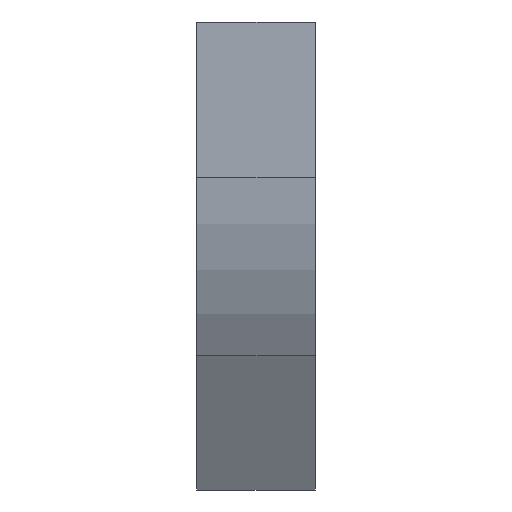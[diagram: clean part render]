
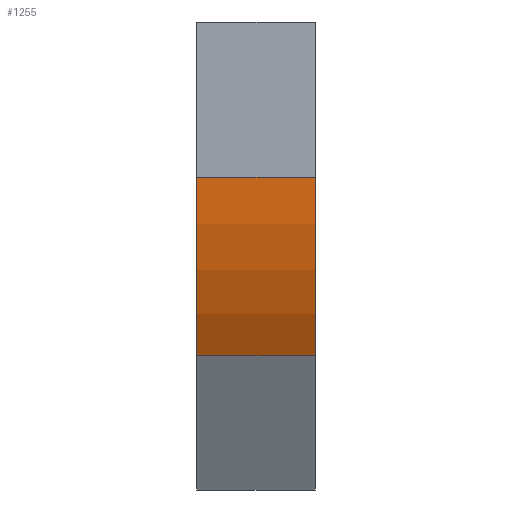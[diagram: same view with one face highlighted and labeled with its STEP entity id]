
A CAD part, left-side view. The second image highlights one B-rep face of the part: STEP entity #1255.
In plain terms, the highlighted cylindrical face has radius 300 mm (diameter 600 mm), a partial arc.
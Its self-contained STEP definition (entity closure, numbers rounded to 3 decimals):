
#19 = EDGE_LOOP ( 'NONE', ( #89, #987, #1517, #337 ) ) ;
#73 = VERTEX_POINT ( 'NONE', #1425 ) ;
#89 = ORIENTED_EDGE ( 'NONE', *, *, #729, .F. ) ;
#145 = VECTOR ( 'NONE', #492, 1000. ) ;
#167 = CARTESIAN_POINT ( 'NONE',  ( 40.192, 0., -280.385 ) ) ;
#254 = CARTESIAN_POINT ( 'NONE',  ( 0., 0., -130.385 ) ) ;
#263 = DIRECTION ( 'NONE',  ( 0., -1., 0. ) ) ;
#337 = ORIENTED_EDGE ( 'NONE', *, *, #364, .T. ) ;
#364 = EDGE_CURVE ( 'NONE', #939, #750, #872, .T. ) ;
#400 = FACE_OUTER_BOUND ( 'NONE', #19, .T. ) ;
#405 = CARTESIAN_POINT ( 'NONE',  ( 300., 100., -130.385 ) ) ;
#419 = DIRECTION ( 'NONE',  ( 0., -1., 0. ) ) ;
#420 = CIRCLE ( 'NONE', #1356, 300. ) ;
#451 = CIRCLE ( 'NONE', #1574, 300. ) ;
#481 = VECTOR ( 'NONE', #651, 1000. ) ;
#492 = DIRECTION ( 'NONE',  ( 0., -1., 0. ) ) ;
#509 = CARTESIAN_POINT ( 'NONE',  ( 40.192, 0., -280.385 ) ) ;
#617 = AXIS2_PLACEMENT_3D ( 'NONE', #901, #263, #779 ) ;
#651 = DIRECTION ( 'NONE',  ( 0., -1., 0. ) ) ;
#668 = LINE ( 'NONE', #254, #481 ) ;
#670 = DIRECTION ( 'NONE',  ( -1., 0., 0. ) ) ;
#729 = EDGE_CURVE ( 'NONE', #1371, #750, #420, .T. ) ;
#750 = VERTEX_POINT ( 'NONE', #167 ) ;
#779 = DIRECTION ( 'NONE',  ( 0., 0., -1. ) ) ;
#872 = LINE ( 'NONE', #509, #145 ) ;
#901 = CARTESIAN_POINT ( 'NONE',  ( 300., 0., -130.385 ) ) ;
#939 = VERTEX_POINT ( 'NONE', #1099 ) ;
#987 = ORIENTED_EDGE ( 'NONE', *, *, #1241, .F. ) ;
#1062 = CARTESIAN_POINT ( 'NONE',  ( 300., 0., -130.385 ) ) ;
#1072 = CARTESIAN_POINT ( 'NONE',  ( 0., 0., -130.385 ) ) ;
#1099 = CARTESIAN_POINT ( 'NONE',  ( 40.192, 100., -280.385 ) ) ;
#1158 = CYLINDRICAL_SURFACE ( 'NONE', #617, 300. ) ;
#1241 = EDGE_CURVE ( 'NONE', #73, #1371, #668, .T. ) ;
#1255 = ADVANCED_FACE ( 'NONE', ( #400 ), #1158, .T. ) ;
#1356 = AXIS2_PLACEMENT_3D ( 'NONE', #1062, #419, #1576 ) ;
#1371 = VERTEX_POINT ( 'NONE', #1072 ) ;
#1425 = CARTESIAN_POINT ( 'NONE',  ( 0., 100., -130.385 ) ) ;
#1456 = DIRECTION ( 'NONE',  ( 0., -1., 0. ) ) ;
#1500 = EDGE_CURVE ( 'NONE', #73, #939, #451, .T. ) ;
#1517 = ORIENTED_EDGE ( 'NONE', *, *, #1500, .T. ) ;
#1574 = AXIS2_PLACEMENT_3D ( 'NONE', #405, #1456, #670 ) ;
#1576 = DIRECTION ( 'NONE',  ( -1., 0., 0. ) ) ;
